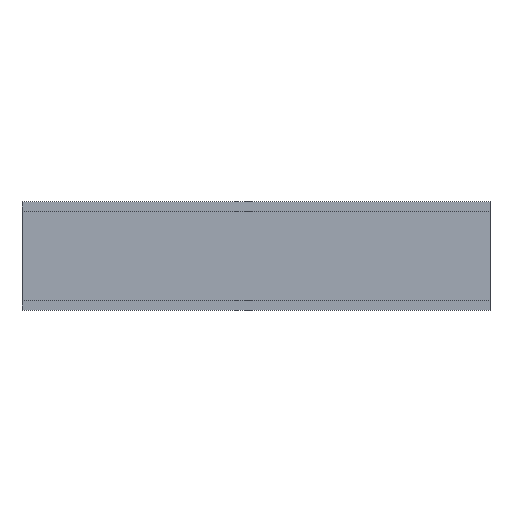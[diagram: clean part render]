
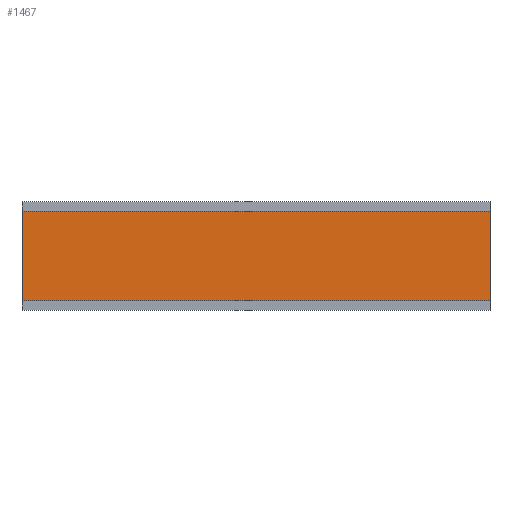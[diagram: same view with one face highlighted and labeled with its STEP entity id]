
A CAD part, front view. The second image highlights one B-rep face of the part: STEP entity #1467.
In plain terms, the highlighted planar face has unit normal (0, -1, 0).
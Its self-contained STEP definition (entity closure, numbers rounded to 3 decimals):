
#139 = DIRECTION ( 'NONE',  ( 0., 0., 1. ) ) ;
#142 = VECTOR ( 'NONE', #839, 1000. ) ;
#184 = LINE ( 'NONE', #1043, #1371 ) ;
#258 = EDGE_CURVE ( 'NONE', #597, #1641, #292, .T. ) ;
#292 = LINE ( 'NONE', #1420, #1289 ) ;
#304 = EDGE_LOOP ( 'NONE', ( #733, #756, #1252, #829 ) ) ;
#357 = LINE ( 'NONE', #1102, #142 ) ;
#401 = CARTESIAN_POINT ( 'NONE',  ( 1000., -68., -95.25 ) ) ;
#478 = EDGE_CURVE ( 'NONE', #998, #597, #357, .T. ) ;
#519 = DIRECTION ( 'NONE',  ( -1., 0., 0. ) ) ;
#597 = VERTEX_POINT ( 'NONE', #729 ) ;
#649 = PLANE ( 'NONE',  #1047 ) ;
#723 = CARTESIAN_POINT ( 'NONE',  ( 0., -68., -95.25 ) ) ;
#729 = CARTESIAN_POINT ( 'NONE',  ( 1000., -68., -95.25 ) ) ;
#733 = ORIENTED_EDGE ( 'NONE', *, *, #923, .T. ) ;
#737 = CARTESIAN_POINT ( 'NONE',  ( 1000., -68., 95.25 ) ) ;
#756 = ORIENTED_EDGE ( 'NONE', *, *, #258, .F. ) ;
#829 = ORIENTED_EDGE ( 'NONE', *, *, #1306, .T. ) ;
#839 = DIRECTION ( 'NONE',  ( 0., 0., -1. ) ) ;
#910 = DIRECTION ( 'NONE',  ( -1., 0., 0. ) ) ;
#920 = DIRECTION ( 'NONE',  ( 0., 1., 0. ) ) ;
#923 = EDGE_CURVE ( 'NONE', #1095, #1641, #184, .T. ) ;
#926 = LINE ( 'NONE', #737, #1342 ) ;
#998 = VERTEX_POINT ( 'NONE', #1547 ) ;
#1043 = CARTESIAN_POINT ( 'NONE',  ( 0., -68., -95.25 ) ) ;
#1047 = AXIS2_PLACEMENT_3D ( 'NONE', #401, #920, #139 ) ;
#1057 = DIRECTION ( 'NONE',  ( 0., 0., -1. ) ) ;
#1073 = CARTESIAN_POINT ( 'NONE',  ( 0., -68., 95.25 ) ) ;
#1095 = VERTEX_POINT ( 'NONE', #1073 ) ;
#1102 = CARTESIAN_POINT ( 'NONE',  ( 1000., -68., -95.25 ) ) ;
#1252 = ORIENTED_EDGE ( 'NONE', *, *, #478, .F. ) ;
#1289 = VECTOR ( 'NONE', #519, 1000. ) ;
#1306 = EDGE_CURVE ( 'NONE', #998, #1095, #926, .T. ) ;
#1342 = VECTOR ( 'NONE', #910, 1000. ) ;
#1371 = VECTOR ( 'NONE', #1057, 1000. ) ;
#1420 = CARTESIAN_POINT ( 'NONE',  ( 1000., -68., -95.25 ) ) ;
#1445 = FACE_OUTER_BOUND ( 'NONE', #304, .T. ) ;
#1467 = ADVANCED_FACE ( 'NONE', ( #1445 ), #649, .F. ) ;
#1547 = CARTESIAN_POINT ( 'NONE',  ( 1000., -68., 95.25 ) ) ;
#1641 = VERTEX_POINT ( 'NONE', #723 ) ;
